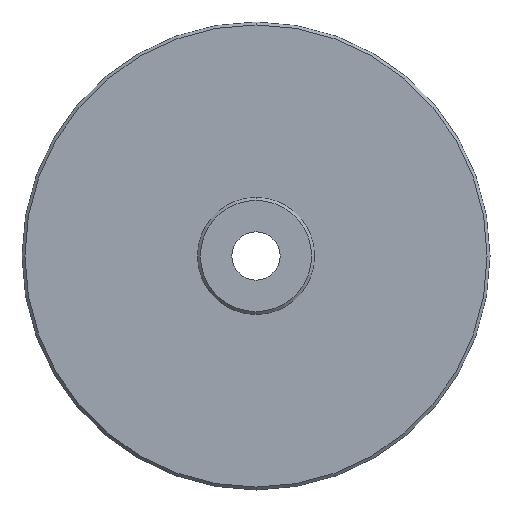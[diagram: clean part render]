
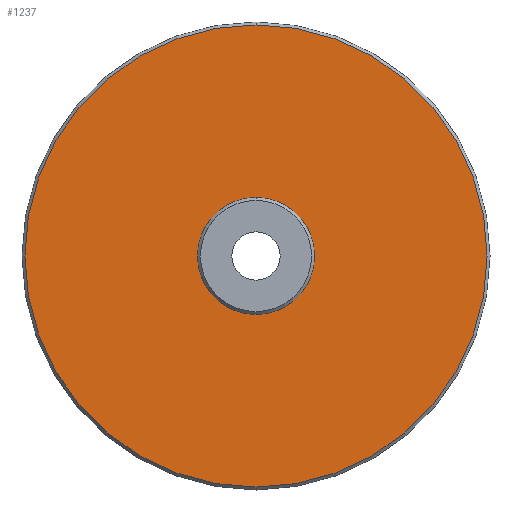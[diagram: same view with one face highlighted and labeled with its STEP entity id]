
A CAD part, front view. The second image highlights one B-rep face of the part: STEP entity #1237.
In plain terms, the highlighted planar face has unit normal (0, -1, 0).
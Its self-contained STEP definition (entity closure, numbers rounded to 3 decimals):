
#29 = DIRECTION ( 'NONE',  ( 0., 1., 0. ) ) ;
#40 = DIRECTION ( 'NONE',  ( 0., -1., 0. ) ) ;
#68 = EDGE_CURVE ( 'NONE', #1214, #717, #1201, .T. ) ;
#111 = ORIENTED_EDGE ( 'NONE', *, *, #560, .F. ) ;
#127 = AXIS2_PLACEMENT_3D ( 'NONE', #739, #1165, #236 ) ;
#157 = EDGE_LOOP ( 'NONE', ( #1309, #1079 ) ) ;
#233 = EDGE_LOOP ( 'NONE', ( #111, #948 ) ) ;
#236 = DIRECTION ( 'NONE',  ( 0., 0., 1. ) ) ;
#243 = CARTESIAN_POINT ( 'NONE',  ( 0., 0., 4. ) ) ;
#274 = CARTESIAN_POINT ( 'NONE',  ( 0., 0., 15.8 ) ) ;
#275 = AXIS2_PLACEMENT_3D ( 'NONE', #1063, #40, #564 ) ;
#307 = CARTESIAN_POINT ( 'NONE',  ( 0., 0., -4. ) ) ;
#323 = DIRECTION ( 'NONE',  ( 0., 0., 1. ) ) ;
#345 = DIRECTION ( 'NONE',  ( 0., 0., 1. ) ) ;
#350 = AXIS2_PLACEMENT_3D ( 'NONE', #636, #29, #323 ) ;
#361 = CIRCLE ( 'NONE', #902, 4. ) ;
#393 = FACE_OUTER_BOUND ( 'NONE', #157, .T. ) ;
#431 = CIRCLE ( 'NONE', #275, 15.8 ) ;
#505 = VERTEX_POINT ( 'NONE', #1199 ) ;
#534 = CIRCLE ( 'NONE', #127, 15.8 ) ;
#560 = EDGE_CURVE ( 'NONE', #717, #1214, #361, .T. ) ;
#564 = DIRECTION ( 'NONE',  ( 0., 0., 1. ) ) ;
#615 = DIRECTION ( 'NONE',  ( 0., -1., 0. ) ) ;
#636 = CARTESIAN_POINT ( 'NONE',  ( 0., 0., 0. ) ) ;
#704 = DIRECTION ( 'NONE',  ( 0., 0., 1. ) ) ;
#717 = VERTEX_POINT ( 'NONE', #243 ) ;
#739 = CARTESIAN_POINT ( 'NONE',  ( 0., 0., 0. ) ) ;
#758 = EDGE_CURVE ( 'NONE', #505, #1146, #431, .T. ) ;
#786 = CARTESIAN_POINT ( 'NONE',  ( 0., 0., 0. ) ) ;
#793 = FACE_BOUND ( 'NONE', #233, .T. ) ;
#902 = AXIS2_PLACEMENT_3D ( 'NONE', #971, #1066, #345 ) ;
#948 = ORIENTED_EDGE ( 'NONE', *, *, #68, .F. ) ;
#971 = CARTESIAN_POINT ( 'NONE',  ( 0., 0., 0. ) ) ;
#1019 = AXIS2_PLACEMENT_3D ( 'NONE', #786, #615, #704 ) ;
#1044 = EDGE_CURVE ( 'NONE', #1146, #505, #534, .T. ) ;
#1063 = CARTESIAN_POINT ( 'NONE',  ( 0., 0., 0. ) ) ;
#1066 = DIRECTION ( 'NONE',  ( 0., -1., 0. ) ) ;
#1079 = ORIENTED_EDGE ( 'NONE', *, *, #758, .T. ) ;
#1146 = VERTEX_POINT ( 'NONE', #274 ) ;
#1165 = DIRECTION ( 'NONE',  ( 0., -1., 0. ) ) ;
#1199 = CARTESIAN_POINT ( 'NONE',  ( 0., 0., -15.8 ) ) ;
#1201 = CIRCLE ( 'NONE', #1019, 4. ) ;
#1214 = VERTEX_POINT ( 'NONE', #307 ) ;
#1215 = PLANE ( 'NONE',  #350 ) ;
#1237 = ADVANCED_FACE ( 'NONE', ( #393, #793 ), #1215, .F. ) ;
#1309 = ORIENTED_EDGE ( 'NONE', *, *, #1044, .T. ) ;
